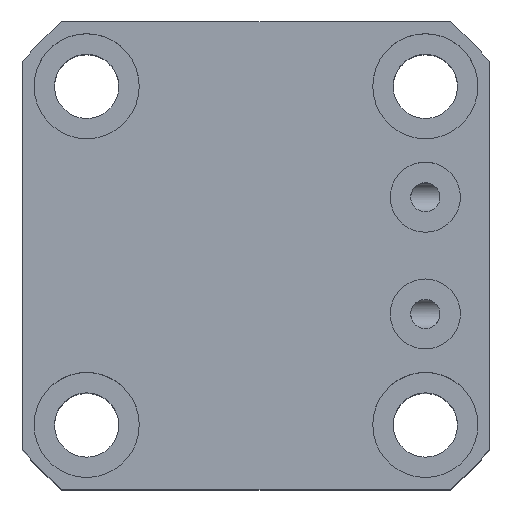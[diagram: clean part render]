
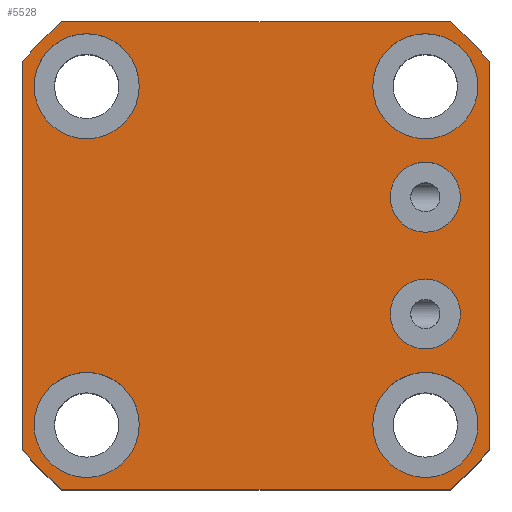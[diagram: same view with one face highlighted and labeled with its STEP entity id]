
A CAD part, top view. The second image highlights one B-rep face of the part: STEP entity #5528.
In plain terms, the highlighted planar face has unit normal (0, 0, 1).
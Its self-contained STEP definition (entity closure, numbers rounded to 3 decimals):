
#2726=PLANE('',#12616);
#3036=LINE('',#20142,#3894);
#3043=LINE('',#20847,#3901);
#3047=LINE('',#20859,#3905);
#3050=LINE('',#20868,#3908);
#3894=VECTOR('',#13138,1.);
#3901=VECTOR('',#13293,1.);
#3905=VECTOR('',#13305,1.);
#3908=VECTOR('',#13316,1.);
#5361=FACE_BOUND('',#6558,.T.);
#5362=FACE_BOUND('',#6559,.T.);
#5363=FACE_BOUND('',#6560,.T.);
#5364=FACE_BOUND('',#6561,.T.);
#5365=FACE_BOUND('',#6562,.T.);
#5366=FACE_BOUND('',#6563,.T.);
#5367=FACE_BOUND('',#6564,.T.);
#5528=ADVANCED_FACE('',(#5361,#5362,#5363,#5364,#5365,#5366,#5367),#2726,
 .T.);
#6558=EDGE_LOOP('',(#7641));
#6559=EDGE_LOOP('',(#7642));
#6560=EDGE_LOOP('',(#7643));
#6561=EDGE_LOOP('',(#7644));
#6562=EDGE_LOOP('',(#7645));
#6563=EDGE_LOOP('',(#7646));
#6564=EDGE_LOOP('',(#7647,#7648,#7649,#7650,#7651,#7652,#7653,#7654));
#7073=CIRCLE('',#12538,6.);
#7075=CIRCLE('',#12541,6.);
#7090=CIRCLE('',#12565,9.);
#7092=CIRCLE('',#12568,9.);
#7094=CIRCLE('',#12571,9.);
#7096=CIRCLE('',#12574,9.);
#7115=CIRCLE('',#12602,52.);
#7117=CIRCLE('',#12605,52.);
#7119=CIRCLE('',#12609,52.);
#7121=CIRCLE('',#12613,52.);
#7641=ORIENTED_EDGE('',*,*,#11111,.F.);
#7642=ORIENTED_EDGE('',*,*,#11113,.F.);
#7643=ORIENTED_EDGE('',*,*,#11169,.F.);
#7644=ORIENTED_EDGE('',*,*,#11171,.F.);
#7645=ORIENTED_EDGE('',*,*,#11173,.F.);
#7646=ORIENTED_EDGE('',*,*,#11175,.F.);
#7647=ORIENTED_EDGE('',*,*,#11194,.T.);
#7648=ORIENTED_EDGE('',*,*,#11099,.T.);
#7649=ORIENTED_EDGE('',*,*,#11198,.T.);
#7650=ORIENTED_EDGE('',*,*,#11201,.T.);
#7651=ORIENTED_EDGE('',*,*,#11204,.T.);
#7652=ORIENTED_EDGE('',*,*,#11207,.T.);
#7653=ORIENTED_EDGE('',*,*,#11210,.T.);
#7654=ORIENTED_EDGE('',*,*,#11212,.T.);
#10085=VERTEX_POINT('',#20141);
#10086=VERTEX_POINT('',#20143);
#10097=VERTEX_POINT('',#20193);
#10099=VERTEX_POINT('',#20198);
#10154=VERTEX_POINT('',#20772);
#10156=VERTEX_POINT('',#20777);
#10158=VERTEX_POINT('',#20782);
#10160=VERTEX_POINT('',#20787);
#10179=VERTEX_POINT('',#20834);
#10181=VERTEX_POINT('',#20840);
#10183=VERTEX_POINT('',#20846);
#10185=VERTEX_POINT('',#20852);
#10187=VERTEX_POINT('',#20858);
#10189=VERTEX_POINT('',#20864);
#11099=EDGE_CURVE('',#10086,#10085,#3036,.T.);
#11111=EDGE_CURVE('',#10097,#10097,#7073,.T.);
#11113=EDGE_CURVE('',#10099,#10099,#7075,.T.);
#11169=EDGE_CURVE('',#10154,#10154,#7090,.T.);
#11171=EDGE_CURVE('',#10156,#10156,#7092,.T.);
#11173=EDGE_CURVE('',#10158,#10158,#7094,.T.);
#11175=EDGE_CURVE('',#10160,#10160,#7096,.T.);
#11194=EDGE_CURVE('',#10179,#10086,#7115,.T.);
#11198=EDGE_CURVE('',#10085,#10181,#7117,.T.);
#11201=EDGE_CURVE('',#10181,#10183,#3043,.T.);
#11204=EDGE_CURVE('',#10183,#10185,#7119,.T.);
#11207=EDGE_CURVE('',#10185,#10187,#3047,.T.);
#11210=EDGE_CURVE('',#10187,#10189,#7121,.T.);
#11212=EDGE_CURVE('',#10189,#10179,#3050,.T.);
#12538=AXIS2_PLACEMENT_3D('',#20192,#13150,#13151);
#12541=AXIS2_PLACEMENT_3D('',#20197,#13156,#13157);
#12565=AXIS2_PLACEMENT_3D('',#20771,#13205,#13206);
#12568=AXIS2_PLACEMENT_3D('',#20776,#13211,#13212);
#12571=AXIS2_PLACEMENT_3D('',#20781,#13217,#13218);
#12574=AXIS2_PLACEMENT_3D('',#20786,#13223,#13224);
#12602=AXIS2_PLACEMENT_3D('',#20833,#13279,#13280);
#12605=AXIS2_PLACEMENT_3D('',#20841,#13287,#13288);
#12609=AXIS2_PLACEMENT_3D('',#20853,#13299,#13300);
#12613=AXIS2_PLACEMENT_3D('',#20865,#13311,#13312);
#12616=AXIS2_PLACEMENT_3D('',#20870,#13319,#13320);
#13138=DIRECTION('',(0.,-1.,0.));
#13150=DIRECTION('',(0.,0.,1.));
#13151=DIRECTION('',(1.,0.,0.));
#13156=DIRECTION('',(0.,0.,1.));
#13157=DIRECTION('',(1.,0.,0.));
#13205=DIRECTION('',(0.,0.,1.));
#13206=DIRECTION('',(1.,0.,0.));
#13211=DIRECTION('',(0.,0.,1.));
#13212=DIRECTION('',(1.,0.,0.));
#13217=DIRECTION('',(0.,0.,1.));
#13218=DIRECTION('',(1.,0.,0.));
#13223=DIRECTION('',(0.,0.,1.));
#13224=DIRECTION('',(1.,0.,0.));
#13279=DIRECTION('',(0.,0.,1.));
#13280=DIRECTION('',(1.,0.,0.));
#13287=DIRECTION('',(0.,0.,1.));
#13288=DIRECTION('',(1.,0.,0.));
#13293=DIRECTION('',(1.,0.,0.));
#13299=DIRECTION('',(0.,0.,1.));
#13300=DIRECTION('',(1.,0.,0.));
#13305=DIRECTION('',(0.,1.,0.));
#13311=DIRECTION('',(0.,0.,1.));
#13312=DIRECTION('',(1.,0.,0.));
#13316=DIRECTION('',(-1.,0.,0.));
#13319=DIRECTION('',(0.,0.,1.));
#13320=DIRECTION('',(-1.,0.,0.));
#20141=CARTESIAN_POINT('',(-40.,-33.226,42.5));
#20142=CARTESIAN_POINT('',(-40.,33.226,42.5));
#20143=CARTESIAN_POINT('',(-40.,33.226,42.5));
#20192=CARTESIAN_POINT('',(29.,-10.,42.5));
#20193=CARTESIAN_POINT('',(35.,-10.,42.5));
#20197=CARTESIAN_POINT('',(29.,10.,42.5));
#20198=CARTESIAN_POINT('',(35.,10.,42.5));
#20771=CARTESIAN_POINT('',(29.,-29.,42.5));
#20772=CARTESIAN_POINT('',(38.,-29.,42.5));
#20776=CARTESIAN_POINT('',(-29.,-29.,42.5));
#20777=CARTESIAN_POINT('',(-20.,-29.,42.5));
#20781=CARTESIAN_POINT('',(-29.,29.,42.5));
#20782=CARTESIAN_POINT('',(-20.,29.,42.5));
#20786=CARTESIAN_POINT('',(29.,29.,42.5));
#20787=CARTESIAN_POINT('',(38.,29.,42.5));
#20833=CARTESIAN_POINT('',(0.,0.,42.5));
#20834=CARTESIAN_POINT('',(-33.226,40.,42.5));
#20840=CARTESIAN_POINT('',(-33.226,-40.,42.5));
#20841=CARTESIAN_POINT('',(0.,0.,42.5));
#20846=CARTESIAN_POINT('',(33.226,-40.,42.5));
#20847=CARTESIAN_POINT('',(-33.226,-40.,42.5));
#20852=CARTESIAN_POINT('',(40.,-33.226,42.5));
#20853=CARTESIAN_POINT('',(0.,0.,42.5));
#20858=CARTESIAN_POINT('',(40.,33.226,42.5));
#20859=CARTESIAN_POINT('',(40.,33.226,42.5));
#20864=CARTESIAN_POINT('',(33.226,40.,42.5));
#20865=CARTESIAN_POINT('',(0.,0.,42.5));
#20868=CARTESIAN_POINT('',(-33.226,40.,42.5));
#20870=CARTESIAN_POINT('',(0.,0.,42.5));
